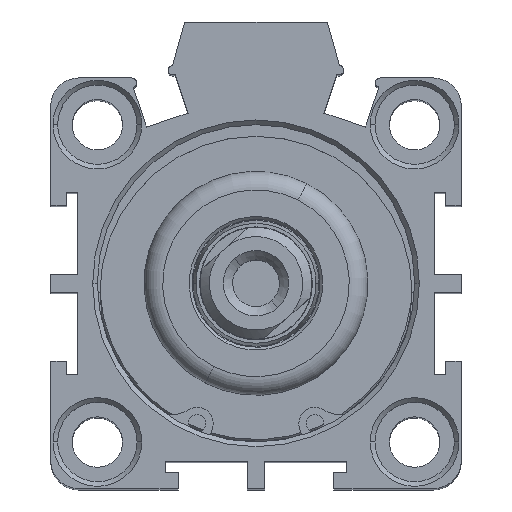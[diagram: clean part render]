
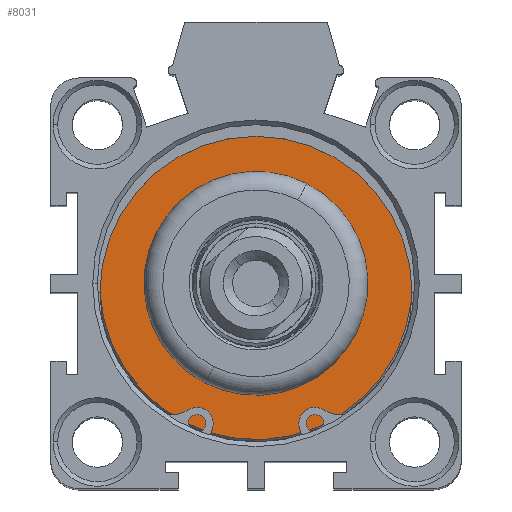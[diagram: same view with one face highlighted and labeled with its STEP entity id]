
A CAD part, top view. The second image highlights one B-rep face of the part: STEP entity #8031.
In plain terms, the highlighted planar face has unit normal (0, 0, 1) as drawn and (1, 0, 0) by its records, which use the part's own axes.
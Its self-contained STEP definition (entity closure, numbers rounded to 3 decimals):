
#221 = CIRCLE ( 'NONE', #3261, 12. ) ;
#623 = ORIENTED_EDGE ( 'NONE', *, *, #4844, .T. ) ;
#763 = CIRCLE ( 'NONE', #19131, 16.75 ) ;
#1585 = DIRECTION ( 'NONE',  ( -1., 0., 0. ) ) ;
#1885 = ORIENTED_EDGE ( 'NONE', *, *, #6287, .T. ) ;
#2004 = VERTEX_POINT ( 'NONE', #11540 ) ;
#2547 = DIRECTION ( 'NONE',  ( 0., 0., 1. ) ) ;
#2753 = DIRECTION ( 'NONE',  ( 0., 0., 1. ) ) ;
#3261 = AXIS2_PLACEMENT_3D ( 'NONE', #5688, #4005, #2547 ) ;
#3269 = ORIENTED_EDGE ( 'NONE', *, *, #17683, .F. ) ;
#3280 = EDGE_LOOP ( 'NONE', ( #623, #1885 ) ) ;
#3567 = CARTESIAN_POINT ( 'NONE',  ( 4.5, 0., 0. ) ) ;
#3956 = CARTESIAN_POINT ( 'NONE',  ( 4.5, 0., 0. ) ) ;
#4005 = DIRECTION ( 'NONE',  ( -1., 0., 0. ) ) ;
#4844 = EDGE_CURVE ( 'NONE', #17533, #2004, #10250, .T. ) ;
#5017 = FACE_OUTER_BOUND ( 'NONE', #6773, .T. ) ;
#5688 = CARTESIAN_POINT ( 'NONE',  ( 4.5, 0., 0. ) ) ;
#5906 = DIRECTION ( 'NONE',  ( -1., 0., 0. ) ) ;
#6287 = EDGE_CURVE ( 'NONE', #2004, #17533, #221, .T. ) ;
#6667 = DIRECTION ( 'NONE',  ( 0., 0., 1. ) ) ;
#6773 = EDGE_LOOP ( 'NONE', ( #3269, #15823 ) ) ;
#7510 = CARTESIAN_POINT ( 'NONE',  ( 4.5, 0., 12. ) ) ;
#7575 = PLANE ( 'NONE',  #10026 ) ;
#8031 = ADVANCED_FACE ( 'NONE', ( #5017, #11352 ), #7575, .F. ) ;
#8327 = DIRECTION ( 'NONE',  ( 0., 0., 1. ) ) ;
#8652 = DIRECTION ( 'NONE',  ( 0., 0., 1. ) ) ;
#8886 = CARTESIAN_POINT ( 'NONE',  ( 4.5, 16.75, 0. ) ) ;
#9084 = CARTESIAN_POINT ( 'NONE',  ( 4.5, 0., -16.75 ) ) ;
#10026 = AXIS2_PLACEMENT_3D ( 'NONE', #8886, #1585, #2753 ) ;
#10250 = CIRCLE ( 'NONE', #12980, 12. ) ;
#11352 = FACE_BOUND ( 'NONE', #3280, .T. ) ;
#11467 = EDGE_CURVE ( 'NONE', #16126, #12532, #16423, .T. ) ;
#11540 = CARTESIAN_POINT ( 'NONE',  ( 4.5, 0., -12. ) ) ;
#11642 = DIRECTION ( 'NONE',  ( -1., 0., 0. ) ) ;
#12532 = VERTEX_POINT ( 'NONE', #18217 ) ;
#12980 = AXIS2_PLACEMENT_3D ( 'NONE', #3567, #14860, #6667 ) ;
#14860 = DIRECTION ( 'NONE',  ( -1., 0., 0. ) ) ;
#15823 = ORIENTED_EDGE ( 'NONE', *, *, #11467, .F. ) ;
#16126 = VERTEX_POINT ( 'NONE', #9084 ) ;
#16130 = AXIS2_PLACEMENT_3D ( 'NONE', #3956, #5906, #8652 ) ;
#16423 = CIRCLE ( 'NONE', #16130, 16.75 ) ;
#17533 = VERTEX_POINT ( 'NONE', #7510 ) ;
#17683 = EDGE_CURVE ( 'NONE', #12532, #16126, #763, .T. ) ;
#17963 = CARTESIAN_POINT ( 'NONE',  ( 4.5, 0., 0. ) ) ;
#18217 = CARTESIAN_POINT ( 'NONE',  ( 4.5, 0., 16.75 ) ) ;
#19131 = AXIS2_PLACEMENT_3D ( 'NONE', #17963, #11642, #8327 ) ;
